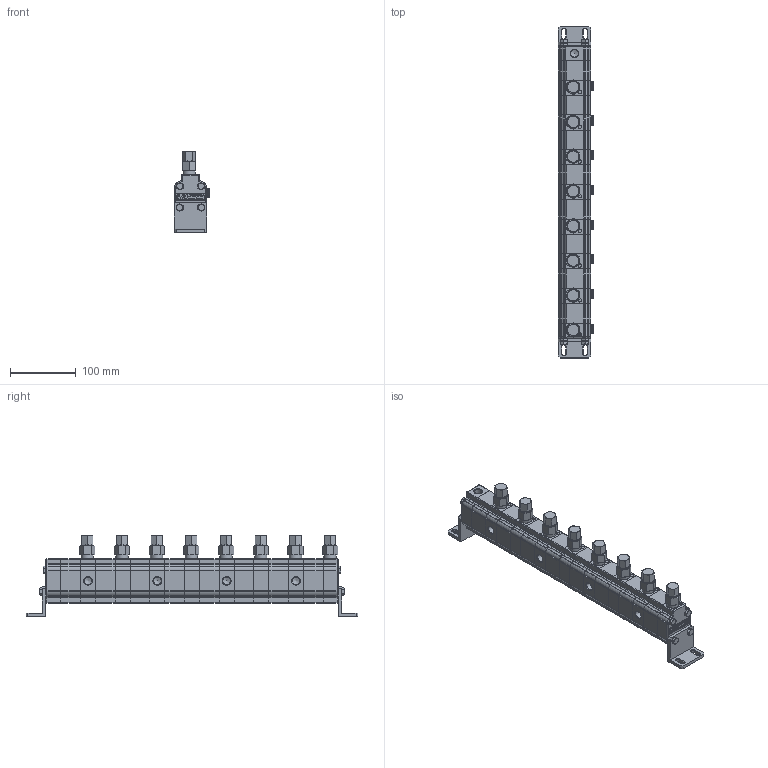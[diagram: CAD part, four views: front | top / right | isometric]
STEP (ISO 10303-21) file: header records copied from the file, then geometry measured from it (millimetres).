
FILE_DESCRIPTION(/* description */ ('Unknown'),/* implementation_level */ '2;1');
FILE_NAME(/* name */ '9RV08-02',/* time_stamp */ '2020-04-14T11:32:10+02:00',/* author */ ('Unknown'),/* organization */ ('Unknown'),/* preprocessor_version */ 'ST-DEVELOPER v16.7',/* originating_system */ 'DEX',/* authorisation */ $);
FILE_SCHEMA (('AUTOMOTIVE_DESIGN {1 0 10303 214 3 1 1}'));
Products named in the file (1): RV-0V
Bounding box: 54.5 x 506.2 x 123.25 mm (x, y, z)
Volume: 1362936.4 mm3; surface area: 153692.3 mm2
Topology: 1 solids, 17 shells, 1900 faces, 4866 edges, 3089 vertices
Faces by surface type: plane 777, cylinder 769, cone 274, bspline 48, torus 32
Full cylindrical faces by diameter (mm): 2 x1, 5 x1, 7 x8, 8.1 x8, 10 x16, 11.445 x33, 13.5 x8, 14 x16, 18.8 x8, 19 x8
Entity records: 77578 total; most frequent: CARTESIAN_POINT 19090, DIRECTION 9690, ORIENTED_EDGE 9124, EDGE_CURVE 4562, AXIS2_PLACEMENT_3D 3755, VERTEX_POINT 3003, FACE_BOUND 2231, EDGE_LOOP 2218
